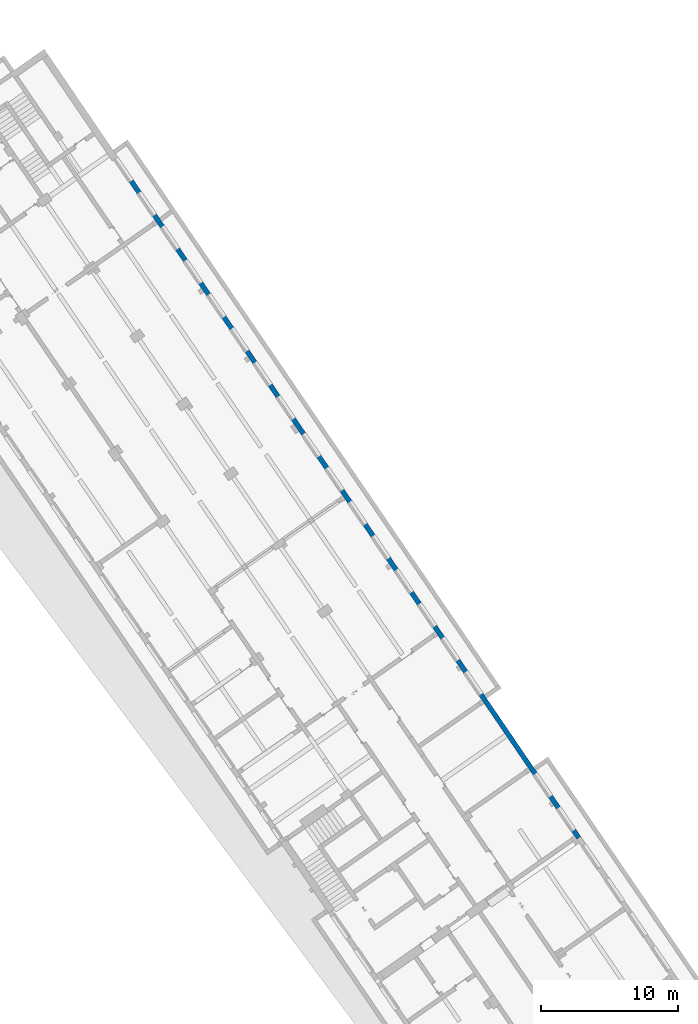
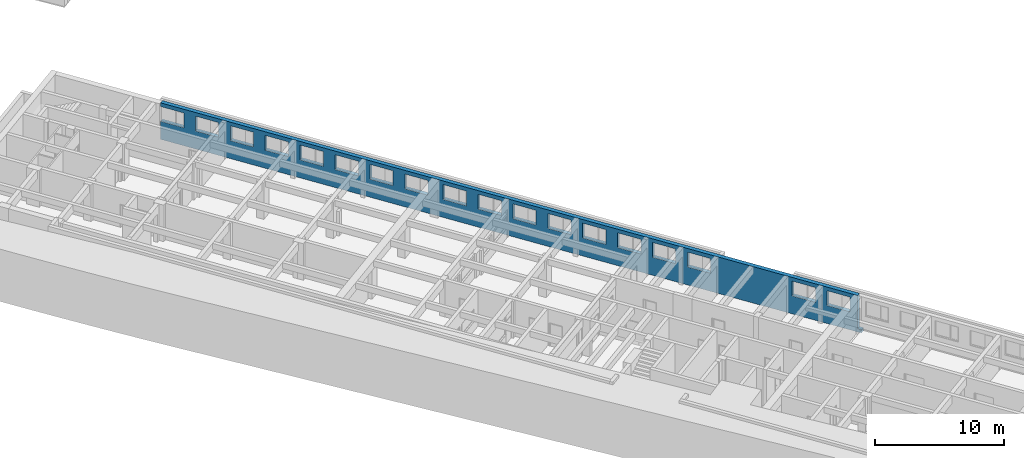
# One storey, part 99 of 112: 1 wall, 18 openings.
"""IFC2X3 building model written with IfcOpenShell, lengths in millimetres."""

from ifc_helpers import new_model, entity, si_unit, converted_unit, derived_unit, direction, frame, frame_2d, origin, place, context, subcontext, project, spatial, rectangle, extrude, faceted_brep, material, layer, layer_set, type_object, element, save


model = new_model("IFC2X3")

# Units and contexts
model_context = context("Model", 3, precision=0.01, world=origin(), true_north=direction((6.123031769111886e-17, 1.0)))
body_context = subcontext(model_context, "Body", "Model", "MODEL_VIEW")
ifc_project = project(units=[si_unit("LENGTHUNIT", "METRE", prefix="MILLI"), si_unit("AREAUNIT", "SQUARE_METRE"), si_unit("VOLUMEUNIT", "CUBIC_METRE"), converted_unit("PLANEANGLEUNIT", "DEGREE", entity("IfcRatioMeasure", 0.017453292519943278), si_unit("PLANEANGLEUNIT", "RADIAN"), dimensions=[0, 0, 0, 0, 0, 0, 0]), si_unit("MASSUNIT", "GRAM", prefix="KILO"), derived_unit("MASSDENSITYUNIT", [(si_unit("MASSUNIT", "GRAM", prefix="KILO"), 1), (si_unit("LENGTHUNIT", "METRE"), -3)]), derived_unit("MOMENTOFINERTIAUNIT", [(si_unit("LENGTHUNIT", "METRE"), 4)]), si_unit("TIMEUNIT", "SECOND"), si_unit("FREQUENCYUNIT", "HERTZ"), si_unit("THERMODYNAMICTEMPERATUREUNIT", "DEGREE_CELSIUS"), derived_unit("THERMALTRANSMITTANCEUNIT", [(si_unit("MASSUNIT", "GRAM", prefix="KILO"), 1), (si_unit("THERMODYNAMICTEMPERATUREUNIT", "KELVIN"), -1), (si_unit("TIMEUNIT", "SECOND"), -3)]), derived_unit("THERMALCONDUCTANCEUNIT", [(si_unit("MASSUNIT", "GRAM", prefix="KILO"), 1), (si_unit("LENGTHUNIT", "METRE"), 1), (si_unit("THERMODYNAMICTEMPERATUREUNIT", "KELVIN"), -1), (si_unit("TIMEUNIT", "SECOND"), -3)]), derived_unit("VOLUMETRICFLOWRATEUNIT", [(si_unit("LENGTHUNIT", "METRE"), 3), (si_unit("TIMEUNIT", "SECOND"), -1)]), derived_unit("MASSFLOWRATEUNIT", [(si_unit("MASSUNIT", "GRAM", prefix="KILO"), 1), (si_unit("TIMEUNIT", "SECOND"), -1)]), derived_unit("ROTATIONALFREQUENCYUNIT", [(si_unit("TIMEUNIT", "SECOND"), -1)]), si_unit("ELECTRICCURRENTUNIT", "AMPERE"), si_unit("ELECTRICVOLTAGEUNIT", "VOLT"), si_unit("POWERUNIT", "WATT"), converted_unit("FORCEUNIT", "KIP", entity("IfcRatioMeasure", 2.088543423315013e-05), si_unit("FORCEUNIT", "NEWTON"), dimensions=[1, 1, -2, 0, 0, 0, 0]), si_unit("ILLUMINANCEUNIT", "LUX"), si_unit("LUMINOUSFLUXUNIT", "LUMEN"), si_unit("LUMINOUSINTENSITYUNIT", "CANDELA"), derived_unit("USERDEFINED", [(si_unit("MASSUNIT", "GRAM", prefix="KILO"), -1), (si_unit("LENGTHUNIT", "METRE"), -2), (si_unit("TIMEUNIT", "SECOND"), 3), (si_unit("LUMINOUSFLUXUNIT", "LUMEN"), 1)]), derived_unit("USERDEFINED", [(si_unit("MASSUNIT", "GRAM", prefix="KILO"), 1), (si_unit("LENGTHUNIT", "METRE"), 3), (si_unit("TIMEUNIT", "SECOND"), -3), (si_unit("ELECTRICCURRENTUNIT", "AMPERE"), -2)]), derived_unit("USERDEFINED", [(si_unit("LENGTHUNIT", "METRE"), 2), (si_unit("TIMEUNIT", "SECOND"), -2)]), derived_unit("SOUNDPOWERUNIT", [(si_unit("MASSUNIT", "GRAM", prefix="KILO"), 1), (si_unit("LENGTHUNIT", "METRE"), 2), (si_unit("TIMEUNIT", "SECOND"), -3)]), derived_unit("SOUNDPRESSUREUNIT", [(si_unit("MASSUNIT", "GRAM", prefix="KILO"), 1), (si_unit("LENGTHUNIT", "METRE"), -1), (si_unit("TIMEUNIT", "SECOND"), -2)]), derived_unit("LINEARVELOCITYUNIT", [(si_unit("LENGTHUNIT", "METRE"), 1), (si_unit("TIMEUNIT", "SECOND"), -1)]), si_unit("PRESSUREUNIT", "PASCAL"), derived_unit("USERDEFINED", [(si_unit("LENGTHUNIT", "METRE"), -2), (si_unit("MASSUNIT", "GRAM", prefix="KILO"), 1), (si_unit("TIMEUNIT", "SECOND"), -2)]), derived_unit("LINEARFORCEUNIT", [(si_unit("MASSUNIT", "GRAM", prefix="KILO"), 1), (si_unit("LENGTHUNIT", "METRE"), 1), (si_unit("TIMEUNIT", "SECOND"), -2), (si_unit("LENGTHUNIT", "METRE"), -1)]), derived_unit("PLANARFORCEUNIT", [(si_unit("MASSUNIT", "GRAM", prefix="KILO"), 1), (si_unit("LENGTHUNIT", "METRE"), 1), (si_unit("TIMEUNIT", "SECOND"), -2), (si_unit("LENGTHUNIT", "METRE"), -2)]), derived_unit("SPECIFICHEATCAPACITYUNIT", [(si_unit("LENGTHUNIT", "METRE"), 2), (si_unit("TIMEUNIT", "SECOND"), -2), (si_unit("THERMODYNAMICTEMPERATUREUNIT", "KELVIN"), -1)]), derived_unit("VAPORPERMEABILITYUNIT", [(si_unit("TIMEUNIT", "SECOND"), 1), (si_unit("LENGTHUNIT", "METRE"), -1)]), derived_unit("DYNAMICVISCOSITYUNIT", [(si_unit("MASSUNIT", "GRAM", prefix="KILO"), 1), (si_unit("LENGTHUNIT", "METRE"), -1), (si_unit("TIMEUNIT", "SECOND"), -1)]), derived_unit("THERMALEXPANSIONCOEFFICIENTUNIT", [(si_unit("THERMODYNAMICTEMPERATUREUNIT", "KELVIN"), -1)])], contexts=[model_context])

# Site, building, storey
site_placement = place(None, frame((0.0, 0.0, 0.0), z_axis=(0.0, 0.0, 1.0), x_axis=(0.8191520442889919, 0.5735764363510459, 0.0)))
site = spatial("IfcSite", under=ifc_project, at=site_placement, Name="Default", CompositionType="ELEMENT")
building_placement = place(site_placement, origin())
building = spatial("IfcBuilding", under=site, at=building_placement, CompositionType="ELEMENT")
storey_placement = place(building_placement, frame((0.0, 0.0, -3600.0)))
storey = spatial("IfcBuildingStorey", under=building, at=storey_placement, Name="0.UG -3.60", CompositionType="ELEMENT", Elevation=-3600.0000000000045)

# Wall, openings
ifc_material = material(Name="Analytical Wall Surface_CJC")
ifc_layer = layer(ifc_material, 350.0)
ifc_layer_set = layer_set([ifc_layer], Name="Basic Wall:Wand_Aussen_35")
wall_type = type_object("IfcWallType", Name="Basic Wall:Wand_Aussen_35", PredefinedType="STANDARD", material=ifc_layer_set)
wall_placement = place(storey_placement, frame((-204313.32019787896, 163493.96910242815, 0.0), z_axis=(0.0, 0.0, 1.0), x_axis=(-0.012729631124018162, -0.9999189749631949, 0.0)))
wall = element("IfcWall", 1, at=wall_placement, inside=storey, type_object=wall_type, Name="Basic Wall:Wand_Aussen_35", ObjectType="Basic Wall:Wand_Aussen_35", context=body_context, shape_type="Brep", body=[
    faceted_brep([(54304.39993471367, -175.0, 3100.0), (56304.399934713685, -175.0, 3100.0), (56304.399934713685, -175.0, 1700.0), (54304.39993471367, -175.0, 1700.0), (57304.480965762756, -175.0, 3100.0), (59304.480965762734, -175.0, 3100.0), (59304.480965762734, -175.0, 1700.0), (57304.480965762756, -175.0, 1700.0), (45303.5085932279, -175.0, 3100.0), (47303.50859322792, -175.0, 3100.0), (47303.50859322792, -175.0, 1700.0), (45303.5085932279, -175.0, 1700.0), (42303.265500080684, -175.0, 3100.0), (44303.26550008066, -175.0, 3100.0), (44303.26550008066, -175.0, 1700.0), (42303.265500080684, -175.0, 1700.0), (39303.02240693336, -175.0, 3100.0), (41303.02240693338, -175.0, 3100.0), (41303.02240693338, -175.0, 1700.0), (39303.02240693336, -175.0, 1700.0), (36302.779313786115, -175.0, 3100.0), (38302.77931378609, -175.0, 3100.0), (38302.77931378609, -175.0, 1700.0), (36302.779313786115, -175.0, 1700.0), (33302.53622063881, -175.0, 3100.0), (35302.53622063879, -175.0, 3100.0), (35302.53622063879, -175.0, 1700.0), (33302.53622063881, -175.0, 1700.0), (30302.29312749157, -175.0, 3100.0), (32302.293127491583, -175.0, 3100.0), (32302.293127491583, -175.0, 1700.0), (30302.29312749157, -175.0, 1700.0), (27302.050034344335, -175.0, 3100.0), (29302.0500343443, -175.0, 3100.0), (29302.0500343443, -175.0, 1700.0), (27302.050034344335, -175.0, 1700.0), (24301.806941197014, -175.0, 3100.0), (26301.80694119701, -175.0, 3100.0), (26301.80694119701, -175.0, 1700.0), (24301.806941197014, -175.0, 1700.0), (21001.539538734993, -175.0, 3100.0), (23001.53953873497, -175.0, 3100.0), (23001.53953873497, -175.0, 1700.0), (21001.539538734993, -175.0, 1700.0), (18001.29644558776, -175.0, 3100.0), (20001.29644558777, -175.0, 3100.0), (20001.29644558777, -175.0, 1700.0), (18001.29644558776, -175.0, 1700.0), (15001.053352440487, -175.0, 3100.0), (17001.053352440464, -175.0, 3100.0), (17001.053352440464, -175.0, 1700.0), (15001.053352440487, -175.0, 1700.0), (12000.810259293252, -175.0, 3100.0), (14000.810259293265, -175.0, 3100.0), (14000.810259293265, -175.0, 1700.0), (12000.810259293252, -175.0, 1700.0), (9000.567166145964, -175.0, 3100.0), (11000.567166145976, -175.0, 3100.0), (11000.567166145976, -175.0, 1700.0), (9000.567166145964, -175.0, 1700.0), (6000.486119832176, -175.0, 3100.0), (8000.48611983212, -175.0, 3100.0), (8000.48611983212, -175.0, 1700.0), (6000.486119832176, -175.0, 1700.0), (3000.0809798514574, -175.0, 3100.0), (5000.080979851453, -175.0, 3100.0), (5000.080979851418, -175.0, 1700.0), (3000.0809798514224, -175.0, 1700.0), (2000.0, -175.0, 1700.0), (0.0, -175.0, 1700.0), (0.0, -175.0, 0.0), (5325.269353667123, -175.0, 0.0), (5675.297714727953, -175.0, 0.0), (11325.755543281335, -175.0, 0.0), (11675.783904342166, -175.0, 0.0), (17326.241732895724, -175.0, 0.0), (17676.27009395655, -175.0, 0.0), (23326.727922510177, -175.0, 0.0), (23976.78059305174, -175.0, 0.0), (29627.238421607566, -175.0, 0.0), (29977.266782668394, -175.0, 0.0), (35627.72461122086, -175.0, 0.0), (35977.75297228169, -175.0, 0.0), (41628.21080083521, -175.0, 0.0), (41978.23916189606, -175.0, 0.0), (44628.45389564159, -175.0, 0.0), (44978.48225670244, -175.0, 0.0), (47628.69699044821, -175.0, 0.0), (47978.725351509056, -175.0, 0.0), (53629.18318006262, -175.0, 0.0), (53979.21154112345, -175.0, 0.0), (56629.426274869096, -175.0, 0.0), (56979.45463592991, -175.0, 0.0), (59629.66936967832, -175.0, 0.0), (60279.72204021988, -175.0, 0.0), (60279.72204021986, -175.0, 300.0), (59952.46783898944, -175.0, 300.0), (59952.467838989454, -175.0, 3450.0), (59629.66936967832, -175.0, 3450.0), (56979.45463592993, -175.0, 3450.0), (56629.426274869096, -175.0, 3450.0), (53979.21154112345, -175.0, 3450.0), (53629.18318006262, -175.0, 3450.0), (50978.96844631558, -175.0, 3450.0), (50628.9400852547, -175.0, 3450.0), (47978.725351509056, -175.0, 3450.0), (47628.69699044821, -175.0, 3450.0), (44978.48225670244, -175.0, 3450.0), (44628.45389564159, -175.0, 3450.0), (41978.23916189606, -175.0, 3450.0), (41628.21080083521, -175.0, 3450.0), (35977.75297228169, -175.0, 3450.0), (35627.72461122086, -175.0, 3450.0), (29977.266782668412, -175.0, 3450.0), (29627.238421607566, -175.0, 3450.0), (23976.78059305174, -175.0, 3450.0), (23326.727922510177, -175.0, 3450.0), (17676.27009395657, -175.0, 3450.0), (17326.241732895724, -175.0, 3450.0), (11675.783904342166, -175.0, 3450.0), (11325.755543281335, -175.0, 3450.0), (5675.297714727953, -175.0, 3450.0), (5325.269353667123, -175.0, 3450.0), (0.0, -175.0, 3450.0), (0.0, -175.0, 3100.0), (2000.0, -175.0, 3100.0), (54304.39993471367, 175.0, 3100.0), (54304.39993471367, 175.0, 1700.0), (56304.399934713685, 175.0, 1700.0), (56304.399934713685, 175.0, 3100.0), (57304.480965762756, 175.0, 3100.0), (57304.480965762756, 175.0, 1700.0), (59304.480965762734, 175.0, 1700.0), (59304.480965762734, 175.0, 3100.0), (45303.5085932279, 175.0, 3100.0), (45303.5085932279, 175.0, 1700.0), (47303.50859322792, 175.0, 1700.0), (47303.50859322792, 175.0, 3100.0), (42303.265500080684, 175.0, 3100.0), (42303.265500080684, 175.0, 1700.0), (44303.26550008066, 175.0, 1700.0), (44303.26550008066, 175.0, 3100.0), (39303.02240693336, 175.0, 3100.0), (39303.02240693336, 175.0, 1700.0), (41303.02240693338, 175.0, 1700.0), (41303.02240693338, 175.0, 3100.0), (36302.779313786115, 175.0, 3100.0), (36302.779313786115, 175.0, 1700.0), (38302.77931378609, 175.0, 1700.0), (38302.77931378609, 175.0, 3100.0), (33302.53622063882, 175.0, 3100.0), (33302.53622063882, 175.0, 1700.0), (35302.53622063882, 175.0, 1700.0), (35302.53622063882, 175.0, 3100.0), (30302.29312749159, 175.0, 3100.0), (30302.29312749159, 175.0, 1700.0), (32302.293127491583, 175.0, 1700.0), (32302.293127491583, 175.0, 3100.0), (27302.050034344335, 175.0, 3100.0), (27302.050034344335, 175.0, 1700.0), (29302.0500343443, 175.0, 1700.0), (29302.0500343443, 175.0, 3100.0), (24301.806941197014, 175.0, 3100.0), (24301.806941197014, 175.0, 1700.0), (26301.806941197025, 175.0, 1700.0), (26301.806941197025, 175.0, 3100.0), (21001.539538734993, 175.0, 3100.0), (21001.539538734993, 175.0, 1700.0), (23001.539538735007, 175.0, 1700.0), (23001.539538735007, 175.0, 3100.0), (18001.29644558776, 175.0, 3100.0), (18001.29644558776, 175.0, 1700.0), (20001.29644558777, 175.0, 1700.0), (20001.29644558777, 175.0, 3100.0), (15001.053352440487, 175.0, 3100.0), (15001.053352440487, 175.0, 1700.0), (17001.053352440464, 175.0, 1700.0), (17001.053352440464, 175.0, 3100.0), (12000.810259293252, 175.0, 3100.0), (12000.810259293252, 175.0, 1700.0), (14000.810259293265, 175.0, 1700.0), (14000.810259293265, 175.0, 3100.0), (9000.567166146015, 175.0, 3100.0), (9000.567166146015, 175.0, 1700.0), (11000.567166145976, 175.0, 1700.0), (11000.567166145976, 175.0, 3100.0), (6000.486119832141, 175.0, 3100.0), (6000.486119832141, 175.0, 1700.0), (8000.48611983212, 175.0, 1700.0), (8000.48611983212, 175.0, 3100.0), (3000.080979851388, 175.0, 3100.0), (3000.080979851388, 175.0, 1700.0), (5000.080979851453, 175.0, 1700.0), (5000.080979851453, 175.0, 3100.0), (0.0, 175.0, 0.0), (0.0, 175.0, 1700.0), (2000.0, 175.0, 1700.0), (2000.0, 175.0, 3100.0), (0.0, 175.0, 3100.0), (0.0, 175.0, 3450.0), (59952.46783898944, 175.0, 3450.0), (59952.46783898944, 175.0, 300.0), (60275.2663083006, 175.0, 300.0), (60275.2663083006, 175.0, 0.0), (5669.829718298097, 175.0, 0.0), (5369.552511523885, 175.0, 0.0)], [[[0, 1, 2, 3], [4, 5, 6, 7], [8, 9, 10, 11], [12, 13, 14, 15], [16, 17, 18, 19], [20, 21, 22, 23], [24, 25, 26, 27], [28, 29, 30, 31], [32, 33, 34, 35], [36, 37, 38, 39], [40, 41, 42, 43], [44, 45, 46, 47], [48, 49, 50, 51], [52, 53, 54, 55], [56, 57, 58, 59], [60, 61, 62, 63], [64, 65, 66, 67], [68, 69, 70, 71, 72, 73, 74, 75, 76, 77, 78, 79, 80, 81, 82, 83, 84, 85, 86, 87, 88, 89, 90, 91, 92, 93, 94, 95, 96, 97, 98, 99, 100, 101, 102, 103, 104, 105, 106, 107, 108, 109, 110, 111, 112, 113, 114, 115, 116, 117, 118, 119, 120, 121, 122, 123, 124, 125]], [[126, 127, 128, 129], [130, 131, 132, 133], [134, 135, 136, 137], [138, 139, 140, 141], [142, 143, 144, 145], [146, 147, 148, 149], [150, 151, 152, 153], [154, 155, 156, 157], [158, 159, 160, 161], [162, 163, 164, 165], [166, 167, 168, 169], [170, 171, 172, 173], [174, 175, 176, 177], [178, 179, 180, 181], [182, 183, 184, 185], [186, 187, 188, 189], [190, 191, 192, 193], [194, 195, 196, 197, 198, 199, 200, 201, 202, 203, 204, 205]], [[94, 93, 92, 91, 90, 89, 88, 87, 86, 85, 84, 83, 82, 81, 80, 79, 78, 77, 76, 75, 74, 73, 72, 71, 70, 194, 205, 204, 203]], [[123, 122, 121, 120, 119, 118, 117, 116, 115, 114, 113, 112, 111, 110, 109, 108, 107, 106, 105, 104, 103, 102, 101, 100, 99, 98, 97, 200, 199]], [[124, 123, 199, 198]], [[97, 96, 201, 200]], [[201, 96, 95, 202]], [[95, 94, 203, 202]], [[127, 126, 0, 3]], [[128, 127, 3, 2]], [[129, 128, 2, 1]], [[126, 129, 1, 0]], [[131, 130, 4, 7]], [[132, 131, 7, 6]], [[133, 132, 6, 5]], [[130, 133, 5, 4]], [[135, 134, 8, 11]], [[136, 135, 11, 10]], [[137, 136, 10, 9]], [[134, 137, 9, 8]], [[139, 138, 12, 15]], [[140, 139, 15, 14]], [[141, 140, 14, 13]], [[138, 141, 13, 12]], [[143, 142, 16, 19]], [[144, 143, 19, 18]], [[145, 144, 18, 17]], [[142, 145, 17, 16]], [[147, 146, 20, 23]], [[148, 147, 23, 22]], [[149, 148, 22, 21]], [[146, 149, 21, 20]], [[151, 150, 24, 27]], [[152, 151, 27, 26]], [[153, 152, 26, 25]], [[150, 153, 25, 24]], [[155, 154, 28, 31]], [[156, 155, 31, 30]], [[157, 156, 30, 29]], [[154, 157, 29, 28]], [[159, 158, 32, 35]], [[160, 159, 35, 34]], [[161, 160, 34, 33]], [[158, 161, 33, 32]], [[163, 162, 36, 39]], [[164, 163, 39, 38]], [[165, 164, 38, 37]], [[162, 165, 37, 36]], [[167, 166, 40, 43]], [[168, 167, 43, 42]], [[169, 168, 42, 41]], [[166, 169, 41, 40]], [[171, 170, 44, 47]], [[172, 171, 47, 46]], [[173, 172, 46, 45]], [[170, 173, 45, 44]], [[175, 174, 48, 51]], [[176, 175, 51, 50]], [[177, 176, 50, 49]], [[174, 177, 49, 48]], [[179, 178, 52, 55]], [[180, 179, 55, 54]], [[181, 180, 54, 53]], [[178, 181, 53, 52]], [[183, 182, 56, 59]], [[184, 183, 59, 58]], [[185, 184, 58, 57]], [[182, 185, 57, 56]], [[187, 186, 60, 63]], [[188, 187, 63, 62]], [[189, 188, 62, 61]], [[186, 189, 61, 60]], [[191, 190, 64, 67]], [[192, 191, 67, 66]], [[193, 192, 66, 65]], [[190, 193, 65, 64]], [[196, 195, 69, 68]], [[197, 196, 68, 125]], [[198, 197, 125, 124]], [[70, 69, 195, 194]]], outer=[[False, False, False, False, False, False, False, False, False, False, False, False, False, False, False, False, False, True], [False, False, False, False, False, False, False, False, False, False, False, False, False, False, False, False, False, True], [True], [True], [True], [True], [True], [True], [True], [True], [True], [True], [True], [True], [True], [True], [True], [True], [True], [True], [True], [True], [True], [True], [True], [True], [True], [True], [True], [True], [True], [True], [True], [True], [True], [True], [True], [True], [True], [True], [True], [True], [True], [True], [True], [True], [True], [True], [True], [True], [True], [True], [True], [True], [True], [True], [True], [True], [True], [True], [True], [True], [True], [True], [True], [True], [True], [True], [True], [True], [True], [True], [True], [True], [True], [True], [True], [True], [True], [True]]),
])
opening_1_placement = place(wall_placement, frame((56304.399934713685, 175.0, 1700.0)))
element("IfcOpeningElement", 2, at=opening_1_placement, cuts=wall, Name="Windows_Dbl_Plain:200x140:1", ObjectType="Opening", context=body_context, shape_type="SweptSolid", body=[
    extrude(rectangle(XDim=1400.0000000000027, YDim=1999.9999999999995, at=frame_2d((700.0000000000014, 1000.0000000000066), x_axis=(-1.0, 0.0))), frame((0.0, 0.0, 0.0), z_axis=(0.0, -1.0, 0.0), x_axis=(0.0, 0.0, 1.0)), (0.0, 0.0, 1.0), 350.0),
])
opening_2_placement = place(wall_placement, frame((59304.480965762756, 175.0, 1700.0)))
element("IfcOpeningElement", 3, at=opening_2_placement, cuts=wall, Name="Windows_Dbl_Plain:200x140:1", ObjectType="Opening", context=body_context, shape_type="SweptSolid", body=[
    extrude(rectangle(XDim=1400.0000000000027, YDim=1999.9999999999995, at=frame_2d((700.0000000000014, 1000.0000000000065), x_axis=(-1.0, 0.0))), frame((0.0, 0.0, 0.0), z_axis=(0.0, -1.0, 0.0), x_axis=(0.0, 0.0, 1.0)), (0.0, 0.0, 1.0), 350.0),
])
opening_3_placement = place(wall_placement, frame((47303.50859322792, 175.0, 1700.0)))
element("IfcOpeningElement", 4, at=opening_3_placement, cuts=wall, Name="Windows_Dbl_Plain:200x140:1", ObjectType="Opening", context=body_context, shape_type="SweptSolid", body=[
    extrude(rectangle(XDim=1400.0000000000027, YDim=1999.9999999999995, at=frame_2d((700.0000000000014, 1000.0000000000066), x_axis=(-1.0, 0.0))), frame((0.0, 0.0, 0.0), z_axis=(0.0, -1.0, 0.0), x_axis=(0.0, 0.0, 1.0)), (0.0, 0.0, 1.0), 350.0),
])
opening_4_placement = place(wall_placement, frame((44303.265500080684, 175.0, 1700.0)))
element("IfcOpeningElement", 5, at=opening_4_placement, cuts=wall, Name="Windows_Dbl_Plain:200x140:1", ObjectType="Opening", context=body_context, shape_type="SweptSolid", body=[
    extrude(rectangle(XDim=1400.0000000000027, YDim=1999.9999999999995, at=frame_2d((700.0000000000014, 1000.0000000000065), x_axis=(-1.0, 0.0))), frame((0.0, 0.0, 0.0), z_axis=(0.0, -1.0, 0.0), x_axis=(0.0, 0.0, 1.0)), (0.0, 0.0, 1.0), 350.0),
])
opening_5_placement = place(wall_placement, frame((41303.02240693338, 175.0, 1700.0)))
element("IfcOpeningElement", 6, at=opening_5_placement, cuts=wall, Name="Windows_Dbl_Plain:200x140:1", ObjectType="Opening", context=body_context, shape_type="SweptSolid", body=[
    extrude(rectangle(XDim=1400.0000000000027, YDim=1999.9999999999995, at=frame_2d((700.0000000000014, 1000.0000000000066), x_axis=(-1.0, 0.0))), frame((0.0, 0.0, 0.0), z_axis=(0.0, -1.0, 0.0), x_axis=(0.0, 0.0, 1.0)), (0.0, 0.0, 1.0), 350.0),
])
opening_6_placement = place(wall_placement, frame((38302.779313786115, 175.0, 1700.0)))
element("IfcOpeningElement", 7, at=opening_6_placement, cuts=wall, Name="Windows_Dbl_Plain:200x140:1", ObjectType="Opening", context=body_context, shape_type="SweptSolid", body=[
    extrude(rectangle(XDim=1400.0000000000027, YDim=1999.9999999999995, at=frame_2d((700.0000000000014, 1000.0000000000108), x_axis=(-1.0, 0.0))), frame((0.0, 0.0, 0.0), z_axis=(0.0, -1.0, 0.0), x_axis=(0.0, 0.0, 1.0)), (0.0, 0.0, 1.0), 350.0),
])
opening_7_placement = place(wall_placement, frame((35302.53622063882, 175.0, 1700.0)))
element("IfcOpeningElement", 8, at=opening_7_placement, cuts=wall, Name="Windows_Dbl_Plain:200x140:1", ObjectType="Opening", context=body_context, shape_type="SweptSolid", body=[
    extrude(rectangle(XDim=1400.0000000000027, YDim=1999.9999999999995, at=frame_2d((700.0000000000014, 1000.0000000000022), x_axis=(-1.0, 0.0))), frame((0.0, 0.0, 0.0), z_axis=(0.0, -1.0, 0.0), x_axis=(0.0, 0.0, 1.0)), (0.0, 0.0, 1.0), 350.0),
])
opening_8_placement = place(wall_placement, frame((32302.29312749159, 175.0, 1700.0)))
element("IfcOpeningElement", 9, at=opening_8_placement, cuts=wall, Name="Windows_Dbl_Plain:200x140:1", ObjectType="Opening", context=body_context, shape_type="SweptSolid", body=[
    extrude(rectangle(XDim=1400.0000000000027, YDim=1999.9999999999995, at=frame_2d((700.0000000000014, 1000.0000000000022), x_axis=(-1.0, 0.0))), frame((0.0, 0.0, 0.0), z_axis=(0.0, -1.0, 0.0), x_axis=(0.0, 0.0, 1.0)), (0.0, 0.0, 1.0), 350.0),
])
opening_9_placement = place(wall_placement, frame((29302.050034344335, 175.0, 1700.0)))
element("IfcOpeningElement", 10, at=opening_9_placement, cuts=wall, Name="Windows_Dbl_Plain:200x140:1", ObjectType="Opening", context=body_context, shape_type="SweptSolid", body=[
    extrude(rectangle(XDim=1400.0000000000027, YDim=1999.9999999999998, at=frame_2d((700.0000000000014, 1000.0000000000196), x_axis=(-1.0, 0.0))), frame((0.0, 0.0, 0.0), z_axis=(0.0, -1.0, 0.0), x_axis=(0.0, 0.0, 1.0)), (0.0, 0.0, 1.0), 350.0),
])
opening_10_placement = place(wall_placement, frame((26301.806941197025, 175.0, 1700.0)))
element("IfcOpeningElement", 11, at=opening_10_placement, cuts=wall, Name="Windows_Dbl_Plain:200x140:1", ObjectType="Opening", context=body_context, shape_type="SweptSolid", body=[
    extrude(rectangle(XDim=1400.0000000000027, YDim=1999.9999999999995, at=frame_2d((700.0000000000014, 1000.0000000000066), x_axis=(-1.0, 0.0))), frame((0.0, 0.0, 0.0), z_axis=(0.0, -1.0, 0.0), x_axis=(0.0, 0.0, 1.0)), (0.0, 0.0, 1.0), 350.0),
])
opening_11_placement = place(wall_placement, frame((23001.539538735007, 175.0, 1700.0)))
element("IfcOpeningElement", 12, at=opening_11_placement, cuts=wall, Name="Windows_Dbl_Plain:200x140:1", ObjectType="Opening", context=body_context, shape_type="SweptSolid", body=[
    extrude(rectangle(XDim=1400.0000000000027, YDim=1999.9999999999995, at=frame_2d((700.0000000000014, 1000.0000000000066), x_axis=(-1.0, 0.0))), frame((0.0, 0.0, 0.0), z_axis=(0.0, -1.0, 0.0), x_axis=(0.0, 0.0, 1.0)), (0.0, 0.0, 1.0), 350.0),
])
opening_12_placement = place(wall_placement, frame((20001.29644558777, 175.0, 1700.0)))
element("IfcOpeningElement", 13, at=opening_12_placement, cuts=wall, Name="Windows_Dbl_Plain:200x140:1", ObjectType="Opening", context=body_context, shape_type="SweptSolid", body=[
    extrude(rectangle(XDim=1400.0000000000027, YDim=1999.9999999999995, at=frame_2d((700.0000000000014, 1000.0000000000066), x_axis=(-1.0, 0.0))), frame((0.0, 0.0, 0.0), z_axis=(0.0, -1.0, 0.0), x_axis=(0.0, 0.0, 1.0)), (0.0, 0.0, 1.0), 350.0),
])
opening_13_placement = place(wall_placement, frame((17001.053352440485, 175.0, 1700.0)))
element("IfcOpeningElement", 14, at=opening_13_placement, cuts=wall, Name="Windows_Dbl_Plain:200x140:1", ObjectType="Opening", context=body_context, shape_type="SweptSolid", body=[
    extrude(rectangle(XDim=1400.0000000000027, YDim=1999.9999999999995, at=frame_2d((700.0000000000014, 1000.0000000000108), x_axis=(-1.0, 0.0))), frame((0.0, 0.0, 0.0), z_axis=(0.0, -1.0, 0.0), x_axis=(0.0, 0.0, 1.0)), (0.0, 0.0, 1.0), 350.0),
])
opening_14_placement = place(wall_placement, frame((14000.810259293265, 175.0, 1700.0)))
element("IfcOpeningElement", 15, at=opening_14_placement, cuts=wall, Name="Windows_Dbl_Plain:200x140:1", ObjectType="Opening", context=body_context, shape_type="SweptSolid", body=[
    extrude(rectangle(XDim=1400.0000000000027, YDim=1999.9999999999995, at=frame_2d((700.0000000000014, 1000.0000000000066), x_axis=(-1.0, 0.0))), frame((0.0, 0.0, 0.0), z_axis=(0.0, -1.0, 0.0), x_axis=(0.0, 0.0, 1.0)), (0.0, 0.0, 1.0), 350.0),
])
opening_15_placement = place(wall_placement, frame((11000.567166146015, 175.0, 1700.0)))
element("IfcOpeningElement", 16, at=opening_15_placement, cuts=wall, Name="Windows_Dbl_Plain:200x140:1", ObjectType="Opening", context=body_context, shape_type="SweptSolid", body=[
    extrude(rectangle(XDim=1400.0000000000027, YDim=1999.9999999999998, at=frame_2d((700.0000000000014, 1000.0000000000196), x_axis=(-1.0, 0.0))), frame((0.0, 0.0, 0.0), z_axis=(0.0, -1.0, 0.0), x_axis=(0.0, 0.0, 1.0)), (0.0, 0.0, 1.0), 350.0),
])
opening_16_placement = place(wall_placement, frame((8000.486119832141, 175.0, 1700.0)))
element("IfcOpeningElement", 17, at=opening_16_placement, cuts=wall, Name="Windows_Dbl_Plain:200x140:1", ObjectType="Opening", context=body_context, shape_type="SweptSolid", body=[
    extrude(rectangle(XDim=1400.0000000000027, YDim=1999.9999999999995, at=frame_2d((700.0000000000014, 1000.0000000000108), x_axis=(-1.0, 0.0))), frame((0.0, 0.0, 0.0), z_axis=(0.0, -1.0, 0.0), x_axis=(0.0, 0.0, 1.0)), (0.0, 0.0, 1.0), 350.0),
])
opening_17_placement = place(wall_placement, frame((5000.080979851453, 175.0, 1700.0)))
element("IfcOpeningElement", 18, at=opening_17_placement, cuts=wall, Name="Windows_Dbl_Plain:200x140:1", ObjectType="Opening", context=body_context, shape_type="SweptSolid", body=[
    extrude(rectangle(XDim=1400.0000000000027, YDim=1999.9999999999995, at=frame_2d((700.0000000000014, 1000.0000000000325), x_axis=(-1.0, 0.0))), frame((0.0, 0.0, 0.0), z_axis=(0.0, -1.0, 0.0), x_axis=(0.0, 0.0, 1.0)), (0.0, 0.0, 1.0), 350.0),
])
opening_18_placement = place(wall_placement, frame((2000.0, 175.0, 1700.0)))
element("IfcOpeningElement", 19, at=opening_18_placement, cuts=wall, Name="Windows_Dbl_Plain:200x140:1", ObjectType="Opening", context=body_context, shape_type="SweptSolid", body=[
    extrude(rectangle(XDim=1400.0000000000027, YDim=1999.9999999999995, at=frame_2d((700.0000000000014, 1000.0000000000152), x_axis=(-1.0, 0.0))), frame((0.0, 0.0, 0.0), z_axis=(0.0, -1.0, 0.0), x_axis=(0.0, 0.0, 1.0)), (0.0, 0.0, 1.0), 350.0),
])

save(model, "model.ifc")
